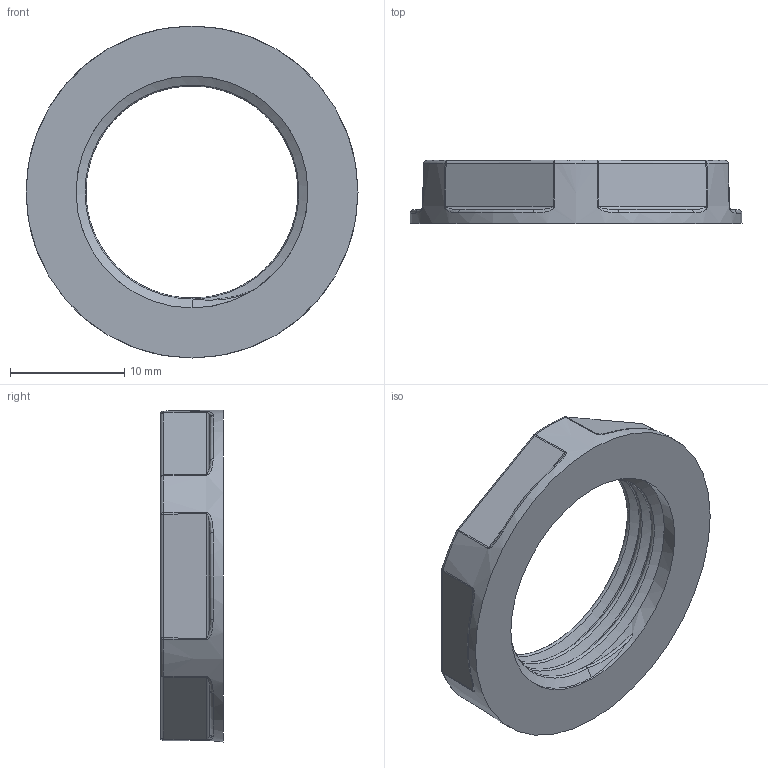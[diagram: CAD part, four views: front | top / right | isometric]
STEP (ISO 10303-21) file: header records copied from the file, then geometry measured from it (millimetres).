
FILE_DESCRIPTION (( 'STEP AP203' ), '1' );
FILE_NAME ('Ãàéêà ïðèæèìíàÿ (PG13.5-Ì20).STEP', '2020-08-06T09:29:09', ( '' ), ( '' ), 'SwSTEP 2.0', 'SolidWorks 2019', '' );
FILE_SCHEMA (( 'CONFIG_CONTROL_DESIGN' ));
Length unit declared in the file: millimetre
Products named in the file (1): Ãàéêà ïðèæèìíàÿ (PG13.5-Ì20)
Bounding box: 29 x 5.5 x 29 mm (x, y, z)
Volume: 1756.1 mm3; surface area: 1685.5 mm2
Topology: 1 solids, 1 shells, 85 faces, 198 edges, 103 vertices
Faces by surface type: bspline 30, cylinder 16, plane 14, torus 12, sphere 12, cone 1
Full cylindrical faces by diameter (mm): 20.25 x3
Entity records: 4229 total; most frequent: CARTESIAN_POINT 2577, ORIENTED_EDGE 348, DIRECTION 308, EDGE_CURVE 174, AXIS2_PLACEMENT_3D 141, VERTEX_POINT 96, CIRCLE 88, EDGE_LOOP 86
